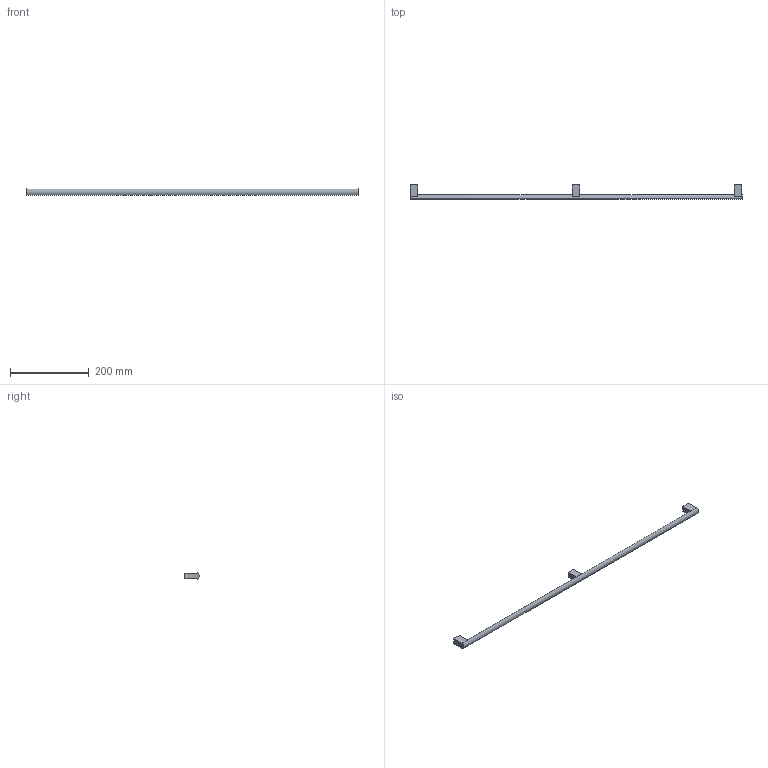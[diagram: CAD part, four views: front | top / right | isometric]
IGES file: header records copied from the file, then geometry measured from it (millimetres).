
Start section: Data from Parasolid IGES Translator 20.0.26, Copyright(c) 2006 Siemens P LM Software. All Rights Reserved.
Global section: file name: 115212.igs; native system: By Siemens PLM Incorporated; preprocessor: XPlus GENERIC/IGES 20.0.26; author: Noname; organization: Noname; date: 20230220.164315; units: millimetre
Bounding box: 844 x 35.96 x 16 mm (x, y, z)
Surface area: 42334.4 mm2 (no closed solid volume)
Topology: 0 solids, 0 shells, 31 faces, 144 edges, 140 vertices
Faces by surface type: extrusion 25, revolution 6
